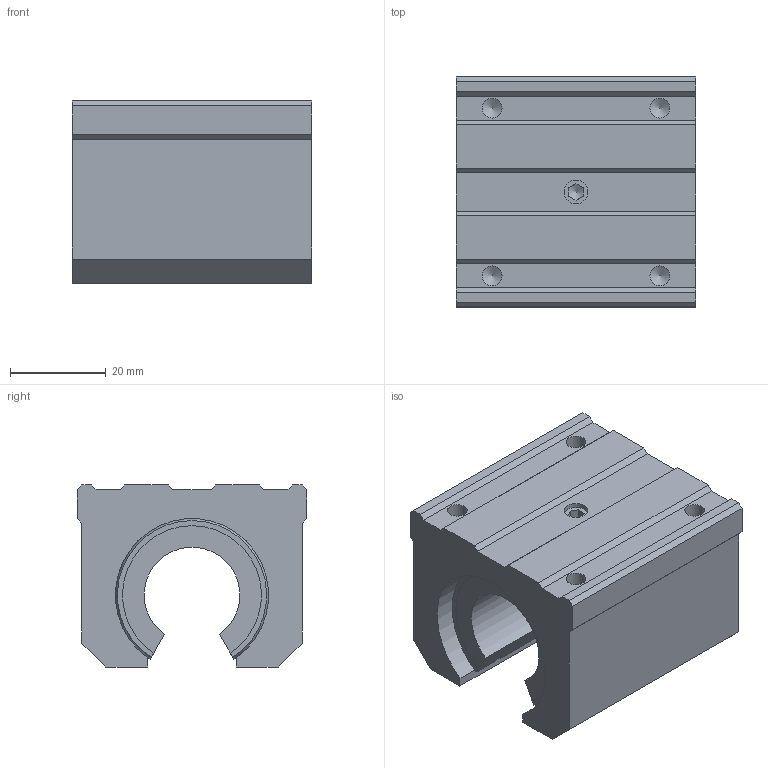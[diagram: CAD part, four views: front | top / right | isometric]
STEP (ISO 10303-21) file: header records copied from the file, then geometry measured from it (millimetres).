
FILE_DESCRIPTION((''),'2;1');
FILE_NAME('D:\製品 (図面)\カタログ用3D\GH20H.stp','2010-06-07T16:09:19',('Tsuchiya'),(''),'Autodesk Inventor 10','Autodesk Inventor 10','');
FILE_SCHEMA(('AUTOMOTIVE_DESIGN { 1 0 10303 214 1 1 1 1 }'));
Length unit declared in the file: millimetre
Products named in the file (1): GH20H
Bounding box: 50 x 48 x 38 mm (x, y, z)
Volume: 61448.4 mm3; surface area: 15104.9 mm2
Topology: 1 solids, 1 shells, 73 faces, 207 edges, 133 vertices
Faces by surface type: plane 45, cylinder 17, bspline 6, cone 3, torus 2
Full cylindrical faces by diameter (mm): 4.134 x2
Entity records: 2342 total; most frequent: CARTESIAN_POINT 520, ORIENTED_EDGE 380, DIRECTION 358, EDGE_CURVE 190, VECTOR 138, LINE 138, VERTEX_POINT 126, AXIS2_PLACEMENT_3D 110
